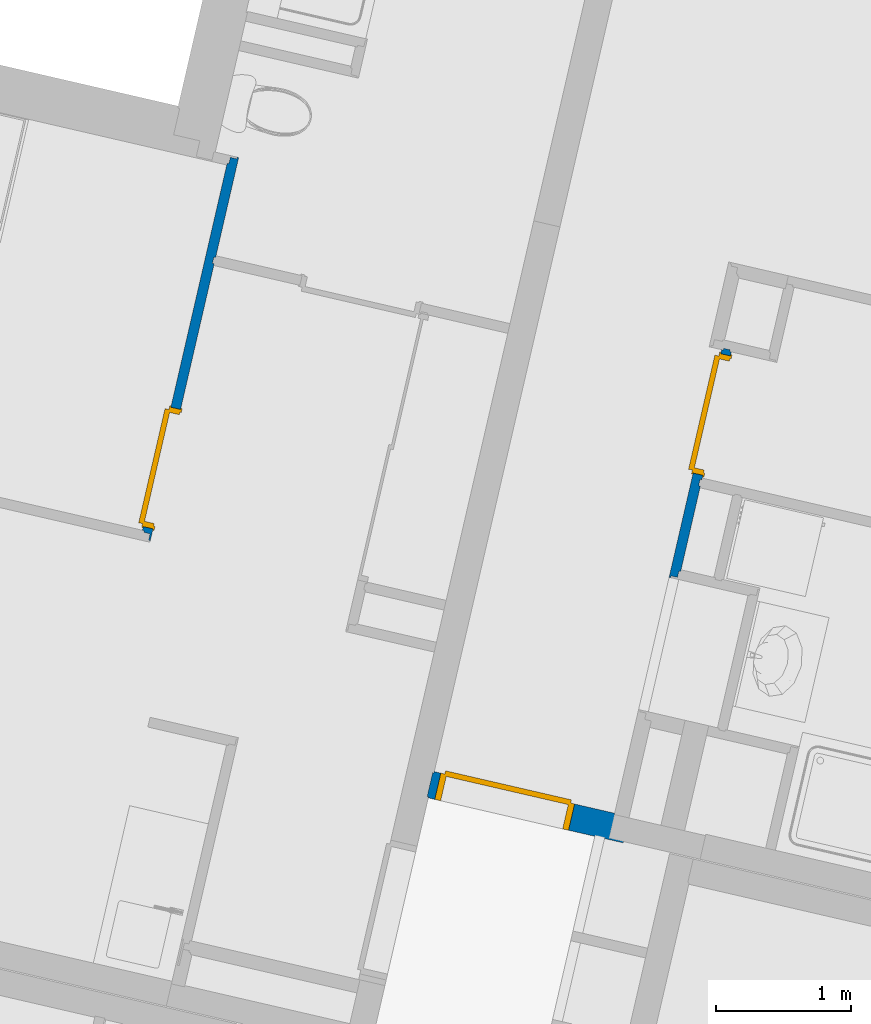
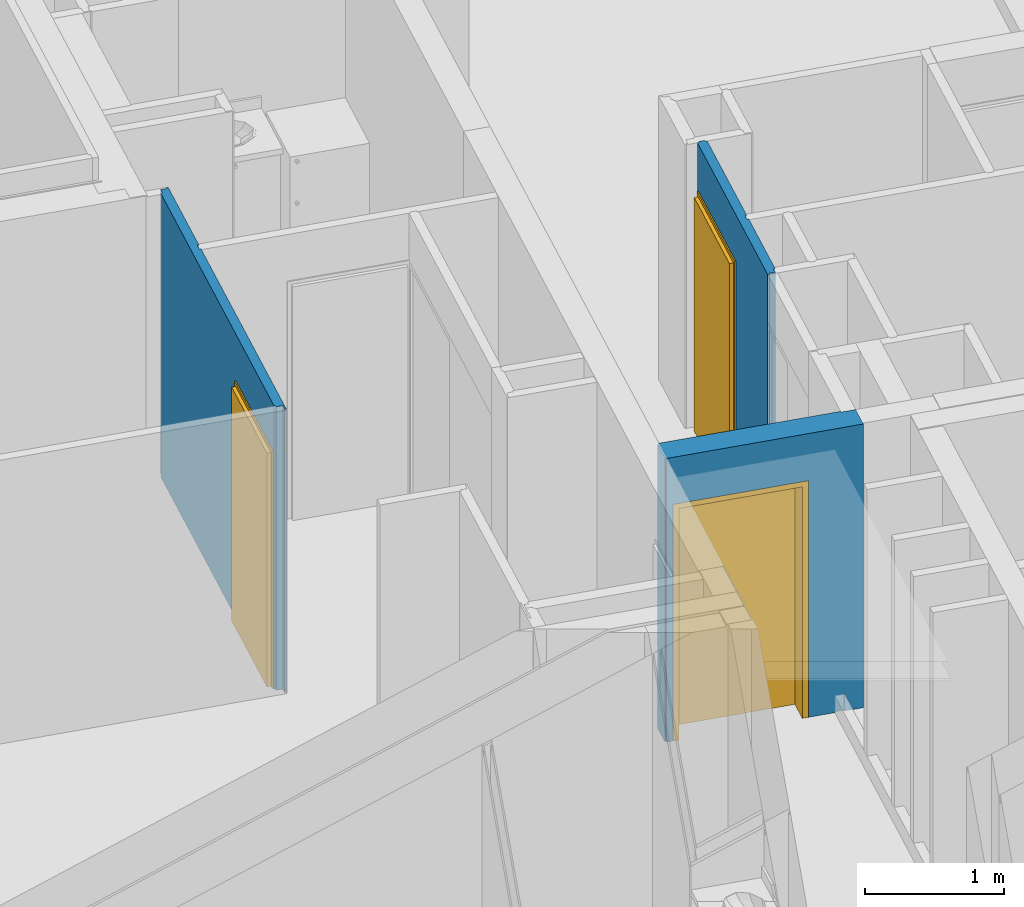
# One storey, part 14 of 62: 3 doors, 3 walls, 3 openings.
"""IFC2X3 building model written with IfcOpenShell, lengths in metres."""

from ifc_helpers import new_model, entity, si_unit, converted_unit, derived_unit, money_unit, direction, frame, origin_with_axes, place, context, subcontext, project, spatial, faceted_brep, source, transform, mapped, material, material_list, type_object, element, fill, save


model = new_model("IFC2X3")

# Units and contexts
model_context = context("Model", 3, precision=1e-05, world=origin_with_axes(), true_north=direction((0.0, 1.0)))
body_context = subcontext(model_context, "Body", "Model", "MODEL_VIEW")
ifc_project = project(units=[si_unit("LENGTHUNIT", "METRE"), si_unit("AREAUNIT", "SQUARE_METRE"), si_unit("VOLUMEUNIT", "CUBIC_METRE"), converted_unit("PLANEANGLEUNIT", "DEGREE", entity("IfcPlaneAngleMeasure", 0.0174532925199), si_unit("PLANEANGLEUNIT", "RADIAN"), dimensions=[0, 0, 0, 0, 0, 0, 0]), si_unit("SOLIDANGLEUNIT", "STERADIAN"), money_unit("EUR"), converted_unit("TIMEUNIT", "Year", entity("IfcTimeMeasure", 31556926.0), si_unit("TIMEUNIT", "SECOND"), dimensions=[0, 0, 1, 0, 0, 0, 0]), si_unit("MASSUNIT", "GRAM", prefix="KILO"), si_unit("THERMODYNAMICTEMPERATUREUNIT", "DEGREE_CELSIUS"), si_unit("LUMINOUSINTENSITYUNIT", "LUMEN"), si_unit("ENERGYUNIT", "JOULE", prefix="MEGA"), derived_unit("THERMALCONDUCTANCEUNIT", [(si_unit("POWERUNIT", "WATT"), 1), (si_unit("LENGTHUNIT", "METRE"), -1), (si_unit("THERMODYNAMICTEMPERATUREUNIT", "KELVIN"), -1)]), derived_unit("SPECIFICHEATCAPACITYUNIT", [(si_unit("ENERGYUNIT", "JOULE"), 1), (si_unit("MASSUNIT", "GRAM", prefix="KILO"), -1), (si_unit("THERMODYNAMICTEMPERATUREUNIT", "KELVIN"), -1)]), derived_unit("MASSDENSITYUNIT", [(si_unit("MASSUNIT", "GRAM", prefix="KILO"), 1), (si_unit("VOLUMEUNIT", "CUBIC_METRE"), -1)])], contexts=[model_context])

# Site, building, storey
site_placement = place(None, origin_with_axes())
site = spatial("IfcSite", under=ifc_project, at=site_placement, Name="Site", CompositionType="ELEMENT")
building_placement = place(site_placement, origin_with_axes())
building = spatial("IfcBuilding", under=site, at=building_placement, Name="Bâtiment", CompositionType="ELEMENT")
storey_placement = place(building_placement, frame((0.0, 0.0, 8.16), z_axis=(0.0, 0.0, 1.0), x_axis=(1.0, 0.0, 0.0)))
storey = spatial("IfcBuildingStorey", under=building, at=storey_placement, Name="R+3", CompositionType="ELEMENT", Elevation=8.16)

# Wall, opening, door
ifc_material_1 = material(Name="Finition int - Plaque de plâtre")
ifc_material_2 = material(Name="Isolation - Laine de roche")
ifc_material_list_1 = material_list([ifc_material_1, ifc_material_2, ifc_material_1])
wall_type_1 = type_object("IfcWallType", Name="3 - Cloison 72mm Placostil 74", PredefinedType="USERDEFINED")
wall_1_placement = place(storey_placement, frame((-7.45931774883, 7.64656328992, 0.0), z_axis=(0.0, 0.0, 1.0), x_axis=(-0.224876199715, -0.97438734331, 0.0)))
wall_1 = element("IfcWall", 1, at=wall_1_placement, inside=storey, type_object=wall_type_1, material=ifc_material_list_1, Name="Cloison Placostil 72/48", ObjectType="PARTITIONING", context=body_context, shape_type="Brep", body=[
    faceted_brep([(1.67421319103, -0.013, 2.5), (1.67421319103, 0.0, 2.5), (1.0229999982, 0.0, 2.5), (1.0229999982, -0.013, 2.5), (1.67421319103, -0.013, 0.0), (1.67421319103, 0.0, 0.0), (1.0229999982, 0.0, 0.0), (1.0229999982, -0.013, 0.0)], [[[0, 1, 2, 3]], [[1, 0, 4, 5]], [[1, 5, 6, 2]], [[7, 3, 2, 6]], [[4, 0, 3, 7]], [[5, 4, 7, 6]]]),
    faceted_brep([(0.940667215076, 0.0, 0.0), (0.940667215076, 0.0, 2.08), (0.0306672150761, 0.0, 2.08), (0.0306672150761, 0.0, 0.0), (0.0, 0.0, 0.0), (0.0, 0.0, 2.5), (0.974999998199, 0.0, 2.5), (0.974999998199, 0.0, 0.0), (0.940667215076, -0.013, 0.0), (0.940667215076, -0.013, 2.08), (0.0306672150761, -0.013, 2.08), (0.0306672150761, -0.013, 0.0), (0.0, -0.013, 0.0), (0.0, -0.013, 2.5), (0.9749999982, -0.013, 2.5), (0.9749999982, -0.013, 0.0)], [[[0, 1, 2, 3, 4, 5, 6, 7]], [[1, 0, 8, 9]], [[2, 1, 9, 10]], [[3, 2, 10, 11]], [[3, 11, 12, 4]], [[13, 5, 4, 12]], [[6, 5, 13, 14]], [[14, 15, 7, 6]], [[8, 0, 7, 15]], [[9, 8, 15, 14, 13, 12, 11, 10]]]),
    faceted_brep([(0.940667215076, -0.013, 0.0), (0.940667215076, -0.013, 2.08), (0.0306672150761, -0.013, 2.08), (0.0306672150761, -0.013, 0.0), (-0.0129999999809, -0.013, 0.0), (-0.0129999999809, -0.013, 2.5), (1.72221319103, -0.013, 2.5), (1.72221319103, -0.013, 0.0), (0.940667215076, -0.061, 0.0), (0.940667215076, -0.061, 2.08), (0.0306672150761, -0.061, 2.08), (0.0306672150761, -0.061, 0.0), (-0.0129999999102, -0.061, 0.0), (-0.0129999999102, -0.061, 2.5), (1.72221319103, -0.061, 2.5), (1.72221319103, -0.061, 0.0)], [[[0, 1, 2, 3, 4, 5, 6, 7]], [[1, 0, 8, 9]], [[2, 1, 9, 10]], [[3, 2, 10, 11]], [[3, 11, 12, 4]], [[13, 5, 4, 12]], [[6, 5, 13, 14]], [[14, 15, 7, 6]], [[8, 0, 7, 15]], [[9, 8, 15, 14, 13, 12, 11, 10]]]),
    faceted_brep([(0.940667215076, -0.061, 0.0), (0.940667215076, -0.061, 2.08), (0.0306672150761, -0.061, 2.08), (0.0306672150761, -0.061, 0.0), (0.0, -0.061, 0.0), (0.0, -0.061, 2.5), (1.73521319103, -0.061, 2.5), (1.73521319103, -0.061, 0.0), (0.940667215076, -0.074, 0.0), (0.940667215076, -0.074, 2.08), (0.0306672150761, -0.074, 2.08), (0.0306672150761, -0.074, 0.0), (1.08882680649e-10, -0.074, 0.0), (1.08882680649e-10, -0.074, 2.5), (1.73521319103, -0.074, 2.5), (1.73521319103, -0.074, 0.0)], [[[0, 1, 2, 3, 4, 5, 6, 7]], [[1, 0, 8, 9]], [[2, 1, 9, 10]], [[3, 2, 10, 11]], [[3, 11, 12, 4]], [[13, 5, 4, 12]], [[6, 5, 13, 14]], [[14, 15, 7, 6]], [[8, 0, 7, 15]], [[9, 8, 15, 14, 13, 12, 11, 10]]]),
])
opening_1_placement = place(wall_1_placement, frame((0.485667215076, 0.0, 0.0), z_axis=(0.0, 0.0, 1.0), x_axis=(1.0, 0.0, 0.0)))
opening_1 = element("IfcOpeningElement", 2, at=opening_1_placement, cuts=wall_1, Name="Porte 83x204 bois alvéolaire", context=body_context, shape_type="Brep", body=[
    faceted_brep([(0.455, -0.074, 0.0), (-0.455, -0.074, 0.0), (-0.455, 0.074, 0.0), (0.455, 0.074, 0.0), (0.455, -0.074, 2.08), (-0.455, -0.074, 2.08), (-0.455, 0.074, 2.08), (0.455, 0.074, 2.08)], [[[0, 1, 2, 3]], [[0, 4, 5, 1]], [[1, 5, 6, 2]], [[3, 2, 6, 7]], [[4, 0, 3, 7]], [[5, 4, 7, 6]]]),
])
door_style_1 = type_object("IfcDoorStyle", Name="Porte int générique 2019", ConstructionType="NOTDEFINED", OperationType="SINGLE_SWING_LEFT", ParameterTakesPrecedence=False, Sizeable=False)
shared_shape_1 = source(origin_with_axes(), body_context, "Body", "Brep", [
    faceted_brep([(-0.455, 0.0, 0.0), (-0.455, 0.0, 2.08), (0.455, 0.0, 2.08), (0.455, 0.0, 0.0), (0.415, 0.0, 0.0), (0.415, 0.0, 2.04), (-0.415, 0.0, 2.04), (-0.415, 0.0, 0.0), (-0.455, -0.074, 0.0), (-0.455, -0.074, 2.08), (0.455, -0.074, 2.08), (0.455, -0.074, 0.0), (0.415, -0.074, 0.0), (0.415, -0.074, 2.04), (-0.415, -0.074, 2.04), (-0.415, -0.074, 0.0)], [[[0, 1, 2, 3, 4, 5, 6, 7]], [[8, 9, 1, 0]], [[9, 10, 2, 1]], [[10, 11, 3, 2]], [[3, 11, 12, 4]], [[5, 4, 12, 13]], [[6, 5, 13, 14]], [[7, 6, 14, 15]], [[0, 7, 15, 8]], [[15, 14, 13, 12, 11, 10, 9, 8]]]),
    faceted_brep([(-0.465, 0.0, 0.0), (-0.465, 0.0, 2.09), (-0.465, 0.01, 2.09), (-0.465, 0.01, 0.0), (-0.435, 0.0, 0.0), (-0.435, 0.0, 2.06), (0.435, 0.0, 2.06), (0.435, 0.0, 0.0), (0.465, 0.0, 0.0), (0.465, 0.0, 2.09), (0.465, 0.01, 2.09), (0.465, 0.01, 0.0), (0.435, 0.01, 0.0), (0.435, 0.01, 2.06), (-0.435, 0.01, 2.06), (-0.435, 0.01, 0.0)], [[[0, 1, 2, 3]], [[4, 5, 6, 7, 8, 9, 1, 0]], [[1, 9, 10, 2]], [[3, 2, 10, 11, 12, 13, 14, 15]], [[0, 3, 15, 4]], [[15, 14, 5, 4]], [[14, 13, 6, 5]], [[13, 12, 7, 6]], [[8, 7, 12, 11]], [[9, 8, 11, 10]]]),
    faceted_brep([(-0.465, -0.084, 0.0), (-0.465, -0.084, 2.09), (-0.465, -0.074, 2.09), (-0.465, -0.074, 0.0), (-0.435, -0.084, 0.0), (-0.435, -0.084, 2.06), (0.435, -0.084, 2.06), (0.435, -0.084, 0.0), (0.465, -0.084, 0.0), (0.465, -0.084, 2.09), (0.465, -0.074, 2.09), (0.465, -0.074, 0.0), (0.435, -0.074, 0.0), (0.435, -0.074, 2.06), (-0.435, -0.074, 2.06), (-0.435, -0.074, 0.0)], [[[0, 1, 2, 3]], [[4, 5, 6, 7, 8, 9, 1, 0]], [[1, 9, 10, 2]], [[3, 2, 10, 11, 12, 13, 14, 15]], [[0, 3, 15, 4]], [[15, 14, 5, 4]], [[14, 13, 6, 5]], [[13, 12, 7, 6]], [[8, 7, 12, 11]], [[9, 8, 11, 10]]]),
    faceted_brep([(-0.435, 0.04, 0.0), (0.435, 0.04, 0.0), (0.435, 0.0, 0.0), (-0.435, 0.0, 0.0), (-0.435, 0.04, 2.06), (0.435, 0.04, 2.06), (0.435, 0.0, 2.06), (-0.435, 0.0, 2.06)], [[[0, 1, 2, 3]], [[0, 4, 5, 1]], [[1, 5, 6, 2]], [[3, 2, 6, 7]], [[4, 0, 3, 7]], [[5, 4, 7, 6]]]),
])
door_1_placement = place(opening_1_placement, frame((0.415, 0.0, 0.0), z_axis=(0.0, 0.0, 1.0), x_axis=(-1.0, 0.0, 0.0)))
door_1 = element("IfcDoor", 3, at=door_1_placement, inside=storey, type_object=door_style_1, Name="Porte 83x204 bois alvéolaire", ObjectType="DOOR", OverallHeight=2.04, OverallWidth=0.83, context=body_context, shape_type="MappedRepresentation", body=[
    mapped(shared_shape_1, transform((0.415, 0.074, 0.0))),
])
fill(opening_1, door_1)

wall_2_placement = place(storey_placement, frame((-11.778601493, 6.23265409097, 0.0), z_axis=(0.0, 0.0, 1.0), x_axis=(0.224876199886, 0.97438734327, 0.0)))
wall_2 = element("IfcWall", 4, at=wall_2_placement, inside=storey, type_object=wall_type_1, material=ifc_material_list_1, Name="Cloison Placostil 72/48", ObjectType="PARTITIONING", context=body_context, shape_type="Brep", body=[
    faceted_brep([(0.102208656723, 0.061, 0.0), (0.102208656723, 0.061, 2.08), (1.01220865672, 0.061, 2.08), (1.01220865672, 0.061, 0.0), (2.87200001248, 0.061, 0.0), (2.87200001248, 0.061, 2.5), (0.0739999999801, 0.061, 2.5), (0.0739999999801, 0.061, 0.0), (0.102208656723, 0.074, 0.0), (0.102208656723, 0.074, 2.08), (1.01220865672, 0.074, 2.08), (1.01220865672, 0.074, 0.0), (2.87200001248, 0.074, 0.0), (2.87200001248, 0.074, 2.5), (0.0739999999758, 0.074, 2.5), (0.0739999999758, 0.074, 0.0)], [[[0, 1, 2, 3, 4, 5, 6, 7]], [[1, 0, 8, 9]], [[2, 1, 9, 10]], [[3, 2, 10, 11]], [[3, 11, 12, 4]], [[12, 13, 5, 4]], [[13, 14, 6, 5]], [[15, 7, 6, 14]], [[8, 0, 7, 15]], [[9, 8, 15, 14, 13, 12, 11, 10]]]),
    faceted_brep([(0.102208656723, 0.013, 0.0), (0.102208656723, 0.013, 2.08), (1.01220865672, 0.013, 2.08), (1.01220865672, 0.013, 0.0), (2.9200000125, 0.013, 0.0), (2.9200000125, 0.013, 2.5), (0.0609999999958, 0.013, 2.5), (0.0609999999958, 0.013, 0.0), (0.102208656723, 0.061, 0.0), (0.102208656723, 0.061, 2.08), (1.01220865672, 0.061, 2.08), (1.01220865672, 0.061, 0.0), (2.92000001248, 0.061, 0.0), (2.92000001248, 0.061, 2.5), (0.0609999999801, 0.061, 2.5), (0.0609999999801, 0.061, 0.0)], [[[0, 1, 2, 3, 4, 5, 6, 7]], [[1, 0, 8, 9]], [[2, 1, 9, 10]], [[3, 2, 10, 11]], [[3, 11, 12, 4]], [[12, 13, 5, 4]], [[13, 14, 6, 5]], [[15, 7, 6, 14]], [[8, 0, 7, 15]], [[9, 8, 15, 14, 13, 12, 11, 10]]]),
    faceted_brep([(2.9330000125, 0.013, 0.0), (2.9330000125, 0.0, 0.0), (2.17088528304, 0.0, 0.0), (2.17088528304, 0.013, 0.0), (2.9330000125, 0.013, 2.5), (2.9330000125, 0.0, 2.5), (2.17088528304, 0.0, 2.5), (2.17088528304, 0.013, 2.5)], [[[0, 1, 2, 3]], [[1, 0, 4, 5]], [[1, 5, 6, 2]], [[7, 3, 2, 6]], [[4, 0, 3, 7]], [[5, 4, 7, 6]]]),
    faceted_brep([(0.102208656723, 0.0, 0.0), (0.102208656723, 0.0, 2.08), (1.01220865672, 0.0, 2.08), (1.01220865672, 0.0, 0.0), (2.12288528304, 0.0, 0.0), (2.12288528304, 0.0, 2.5), (0.013, 0.0, 2.5), (0.013, 0.0, 0.0), (0.102208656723, 0.013, 0.0), (0.102208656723, 0.013, 2.08), (1.01220865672, 0.013, 2.08), (1.01220865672, 0.013, 0.0), (2.12288528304, 0.013, 0.0), (2.12288528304, 0.013, 2.5), (0.0129999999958, 0.013, 2.5), (0.0129999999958, 0.013, 0.0)], [[[0, 1, 2, 3, 4, 5, 6, 7]], [[1, 0, 8, 9]], [[2, 1, 9, 10]], [[3, 2, 10, 11]], [[3, 11, 12, 4]], [[12, 13, 5, 4]], [[13, 14, 6, 5]], [[15, 7, 6, 14]], [[8, 0, 7, 15]], [[9, 8, 15, 14, 13, 12, 11, 10]]]),
])
opening_2_placement = place(wall_2_placement, frame((0.557208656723, 0.0, 0.0), z_axis=(0.0, 0.0, 1.0), x_axis=(1.0, 0.0, 0.0)))
opening_2 = element("IfcOpeningElement", 5, at=opening_2_placement, cuts=wall_2, Name="Porte 83x204 bois alvéolaire", context=body_context, shape_type="Brep", body=[
    faceted_brep([(-0.455, 0.074, 0.0), (0.455, 0.074, 0.0), (0.455, -0.074, 0.0), (-0.455, -0.074, 0.0), (-0.455, 0.074, 2.08), (0.455, 0.074, 2.08), (0.455, -0.074, 2.08), (-0.455, -0.074, 2.08)], [[[0, 1, 2, 3]], [[0, 4, 5, 1]], [[1, 5, 6, 2]], [[3, 2, 6, 7]], [[4, 0, 3, 7]], [[5, 4, 7, 6]]]),
])
shared_shape_2 = source(origin_with_axes(), body_context, "Body", "Brep", [
    faceted_brep([(-0.455, -0.006, 0.0), (-0.455, -0.006, 2.08), (0.455, -0.006, 2.08), (0.455, -0.006, 0.0), (0.415, -0.006, 0.0), (0.415, -0.006, 2.04), (-0.415, -0.006, 2.04), (-0.415, -0.006, 0.0), (-0.455, -0.08, 0.0), (-0.455, -0.08, 2.08), (0.455, -0.08, 2.08), (0.455, -0.08, 0.0), (0.415, -0.08, 0.0), (0.415, -0.08, 2.04), (-0.415, -0.08, 2.04), (-0.415, -0.08, 0.0)], [[[0, 1, 2, 3, 4, 5, 6, 7]], [[8, 9, 1, 0]], [[9, 10, 2, 1]], [[10, 11, 3, 2]], [[3, 11, 12, 4]], [[5, 4, 12, 13]], [[6, 5, 13, 14]], [[7, 6, 14, 15]], [[0, 7, 15, 8]], [[15, 14, 13, 12, 11, 10, 9, 8]]]),
    faceted_brep([(-0.465, -0.006, 0.0), (-0.465, -0.006, 2.09), (-0.465, 0.004, 2.09), (-0.465, 0.004, 0.0), (-0.435, -0.006, 0.0), (-0.435, -0.006, 2.06), (0.435, -0.006, 2.06), (0.435, -0.006, 0.0), (0.465, -0.006, 0.0), (0.465, -0.006, 2.09), (0.465, 0.004, 2.09), (0.465, 0.004, 0.0), (0.435, 0.004, 0.0), (0.435, 0.004, 2.06), (-0.435, 0.004, 2.06), (-0.435, 0.004, 0.0)], [[[0, 1, 2, 3]], [[4, 5, 6, 7, 8, 9, 1, 0]], [[1, 9, 10, 2]], [[3, 2, 10, 11, 12, 13, 14, 15]], [[0, 3, 15, 4]], [[15, 14, 5, 4]], [[14, 13, 6, 5]], [[13, 12, 7, 6]], [[8, 7, 12, 11]], [[9, 8, 11, 10]]]),
    faceted_brep([(-0.465, -0.09, 0.0), (-0.465, -0.09, 2.09), (-0.465, -0.08, 2.09), (-0.465, -0.08, 0.0), (-0.435, -0.09, 0.0), (-0.435, -0.09, 2.06), (0.435, -0.09, 2.06), (0.435, -0.09, 0.0), (0.465, -0.09, 0.0), (0.465, -0.09, 2.09), (0.465, -0.08, 2.09), (0.465, -0.08, 0.0), (0.435, -0.08, 0.0), (0.435, -0.08, 2.06), (-0.435, -0.08, 2.06), (-0.435, -0.08, 0.0)], [[[0, 1, 2, 3]], [[4, 5, 6, 7, 8, 9, 1, 0]], [[1, 9, 10, 2]], [[3, 2, 10, 11, 12, 13, 14, 15]], [[0, 3, 15, 4]], [[15, 14, 5, 4]], [[14, 13, 6, 5]], [[13, 12, 7, 6]], [[8, 7, 12, 11]], [[9, 8, 11, 10]]]),
    faceted_brep([(-0.435, 0.034, 0.0), (0.435, 0.034, 0.0), (0.435, -0.006, 0.0), (-0.435, -0.006, 0.0), (-0.435, 0.034, 2.06), (0.435, 0.034, 2.06), (0.435, -0.006, 2.06), (-0.435, -0.006, 2.06)], [[[0, 1, 2, 3]], [[0, 4, 5, 1]], [[1, 5, 6, 2]], [[3, 2, 6, 7]], [[4, 0, 3, 7]], [[5, 4, 7, 6]]]),
])
door_2_placement = place(opening_2_placement, frame((-0.415, 0.0, 0.0), z_axis=(0.0, 0.0, 1.0), x_axis=(1.0, 0.0, 0.0)))
door_2 = element("IfcDoor", 6, at=door_2_placement, inside=storey, type_object=door_style_1, Name="Porte 83x204 bois alvéolaire", ObjectType="DOOR", OverallHeight=2.04, OverallWidth=0.83, context=body_context, shape_type="MappedRepresentation", body=[
    mapped(shared_shape_2, transform((0.415, 0.08, 0.0))),
])
fill(opening_2, door_2)

ifc_material_3 = material(Name="Finition int - Enduit plâtre")
ifc_material_4 = material(Name="Béton")
ifc_material_list_2 = material_list([ifc_material_3, ifc_material_4, ifc_material_3])
wall_type_2 = type_object("IfcWallType", Name="2 - Murs Béton 18 + Enduit 2 Faces 200", PredefinedType="USERDEFINED")
wall_3_placement = place(storey_placement, frame((-8.26304903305, 3.99946505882, 0.0), z_axis=(0.0, 0.0, 1.0), x_axis=(-0.974387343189, 0.224876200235, 0.0)))
wall_3 = element("IfcWall", 7, at=wall_3_placement, inside=storey, type_object=wall_type_2, material=ifc_material_list_2, Name="M_Ext-008", ObjectType="SOLIDWALL", context=body_context, shape_type="Brep", body=[
    faceted_brep([(1.43639556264, -0.0100000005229, 2.085), (1.43639556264, -0.0100000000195, 0.0), (1.4863905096, -0.01, 0.0), (1.4863905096, -0.01, 2.5), (0.0, -0.01, 2.5), (0.0, -0.01, 0.0), (0.141999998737, -0.0100000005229, 0.0), (0.141999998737, -0.0100000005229, 0.15), (0.215999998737, -0.0100000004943, 0.15), (0.215999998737, -0.0100000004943, 0.0), (0.416395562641, -0.0100000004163, 0.0), (0.416395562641, -0.0100000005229, 2.085), (1.43639556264, 0.0, 2.085), (1.43639556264, 0.0, 0.0), (1.48639050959, 0.0, 0.0), (1.48639050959, 0.0, 2.5), (0.0, 0.0, 2.5), (0.0, 0.0, 0.0), (0.141999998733, 0.0, 0.0), (0.141999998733, 0.0, 0.15), (0.215999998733, 0.0, 0.15), (0.215999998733, 0.0, 0.0), (0.416395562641, 0.0, 0.0), (0.416395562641, 0.0, 2.085)], [[[0, 1, 2, 3, 4, 5, 6, 7, 8, 9, 10, 11]], [[1, 0, 12, 13]], [[1, 13, 14, 2]], [[15, 3, 2, 14]], [[3, 15, 16, 4]], [[5, 4, 16, 17]], [[18, 6, 5, 17]], [[7, 6, 18, 19]], [[8, 7, 19, 20]], [[9, 8, 20, 21]], [[22, 10, 9, 21]], [[11, 10, 22, 23]], [[0, 11, 23, 12]], [[23, 22, 21, 20, 19, 18, 17, 16, 15, 14, 13, 12]]]),
    faceted_brep([(1.43639556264, -0.19, 2.085), (1.43639556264, -0.19, 0.0), (1.49639050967, -0.19, 0.0), (1.49639050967, -0.19, 2.5), (0.0, -0.19, 2.5), (0.0, -0.19, 0.0), (0.416395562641, -0.19, 0.0), (0.416395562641, -0.19, 2.085), (1.43639556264, -0.01, 2.085), (1.43639556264, -0.01, 0.0), (1.4963905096, -0.01, 0.0), (1.4963905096, -0.01, 2.5), (0.0, -0.01, 2.5), (0.0, -0.01, 0.0), (0.416395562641, -0.01, 0.0), (0.416395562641, -0.01, 2.085)], [[[0, 1, 2, 3, 4, 5, 6, 7]], [[1, 0, 8, 9]], [[1, 9, 10, 2]], [[3, 2, 10, 11]], [[11, 12, 4, 3]], [[4, 12, 13, 5]], [[14, 6, 5, 13]], [[7, 6, 14, 15]], [[0, 7, 15, 8]], [[15, 14, 13, 12, 11, 10, 9, 8]]]),
    faceted_brep([(1.43639556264, -0.2, 2.085), (1.43639556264, -0.2, 0.0), (1.48639050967, -0.2, 0.0), (1.48639050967, -0.2, 2.5), (0.111000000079, -0.2, 2.5), (0.111000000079, -0.2, 0.0), (0.416395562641, -0.2, 0.0), (0.416395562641, -0.2, 2.085), (1.43639556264, -0.19, 2.085), (1.43639556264, -0.19, 0.0), (1.48639050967, -0.19, 0.0), (1.48639050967, -0.19, 2.5), (0.111000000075, -0.19, 2.5), (0.111000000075, -0.19, 0.0), (0.416395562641, -0.19, 0.0), (0.416395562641, -0.19, 2.085)], [[[0, 1, 2, 3, 4, 5, 6, 7]], [[1, 0, 8, 9]], [[1, 9, 10, 2]], [[3, 2, 10, 11]], [[11, 12, 4, 3]], [[4, 12, 13, 5]], [[14, 6, 5, 13]], [[7, 6, 14, 15]], [[0, 7, 15, 8]], [[15, 14, 13, 12, 11, 10, 9, 8]]]),
])
opening_3_placement = place(wall_3_placement, frame((0.926395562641, 0.0, 0.0), z_axis=(0.0, 0.0, 1.0), x_axis=(1.0, 0.0, 0.0)))
opening_3 = element("IfcOpeningElement", 8, at=opening_3_placement, cuts=wall_3, Name="Porte 93x204 bois blindée", context=body_context, shape_type="Brep", body=[
    faceted_brep([(0.51, -0.2, 0.0), (-0.51, -0.2, 0.0), (-0.51, 0.2, 0.0), (0.51, 0.2, 0.0), (0.51, -0.2, 2.085), (-0.51, -0.2, 2.085), (-0.51, 0.2, 2.085), (0.51, 0.2, 2.085)], [[[0, 1, 2, 3]], [[0, 4, 5, 1]], [[1, 5, 6, 2]], [[3, 2, 6, 7]], [[4, 0, 3, 7]], [[5, 4, 7, 6]]]),
])
door_style_2 = type_object("IfcDoorStyle", Name="Porte int générique 2019", ConstructionType="NOTDEFINED", OperationType="SINGLE_SWING_LEFT", ParameterTakesPrecedence=False, Sizeable=False)
shared_shape_3 = source(origin_with_axes(), body_context, "Body", "Brep", [
    faceted_brep([(-0.51, 0.0, 0.0), (-0.51, 0.0, 2.085), (0.51, 0.0, 2.085), (0.51, 0.0, 0.0), (0.48, 0.0, 0.0), (0.48, 0.0, 2.055), (-0.48, 0.0, 2.055), (-0.48, 0.0, 0.0), (-0.51, -0.2, 0.0), (-0.51, -0.2, 2.085), (0.51, -0.2, 2.085), (0.51, -0.2, 0.0), (0.465, -0.2, 0.0), (0.465, -0.015, 0.0), (0.48, -0.015, 0.0), (0.48, -0.015, 2.055), (-0.48, -0.015, 2.055), (-0.48, -0.015, 0.0), (-0.465, -0.015, 0.0), (-0.465, -0.2, 0.0), (-0.465, -0.2, 2.04), (0.465, -0.2, 2.04), (0.465, -0.015, 2.04), (-0.465, -0.015, 2.04)], [[[0, 1, 2, 3, 4, 5, 6, 7]], [[8, 9, 1, 0]], [[9, 10, 2, 1]], [[10, 11, 3, 2]], [[3, 11, 12, 13, 14, 4]], [[5, 4, 14, 15]], [[6, 5, 15, 16]], [[7, 6, 16, 17]], [[0, 7, 17, 18, 19, 8]], [[19, 20, 21, 12, 11, 10, 9, 8]], [[22, 13, 12, 21]], [[17, 16, 15, 14, 13, 22, 23, 18]], [[18, 23, 20, 19]], [[23, 22, 21, 20]]]),
    faceted_brep([(-0.48, 0.025, 0.0), (0.48, 0.025, 0.0), (0.48, -0.015, 0.0), (-0.48, -0.015, 0.0), (-0.48, 0.025, 2.055), (0.48, 0.025, 2.055), (0.48, -0.015, 2.055), (-0.48, -0.015, 2.055)], [[[0, 1, 2, 3]], [[0, 4, 5, 1]], [[1, 5, 6, 2]], [[3, 2, 6, 7]], [[4, 0, 3, 7]], [[5, 4, 7, 6]]]),
])
door_3_placement = place(opening_3_placement, frame((0.465, 0.0, 0.0), z_axis=(0.0, 0.0, 1.0), x_axis=(-1.0, 0.0, 0.0)))
door_3 = element("IfcDoor", 9, at=door_3_placement, inside=storey, type_object=door_style_2, Name="Porte 93x204 bois blindée", ObjectType="DOOR", OverallHeight=2.04, OverallWidth=0.93, context=body_context, shape_type="MappedRepresentation", body=[
    mapped(shared_shape_3, transform((0.465, 0.2, 0.0))),
])
fill(opening_3, door_3)

save(model, "model.ifc")
